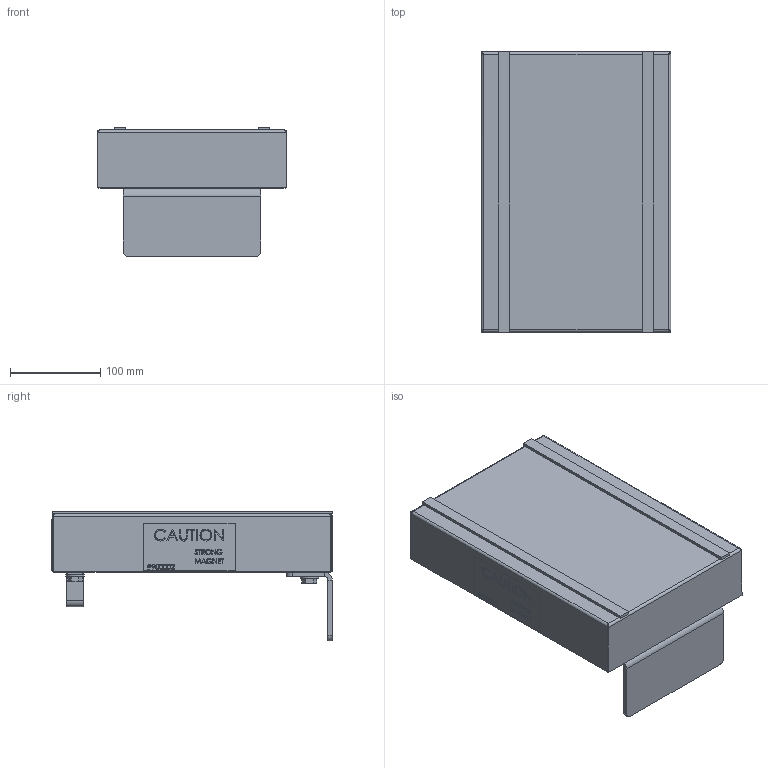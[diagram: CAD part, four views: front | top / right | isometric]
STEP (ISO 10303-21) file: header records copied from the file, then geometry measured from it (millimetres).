
FILE_DESCRIPTION (( 'STEP AP203' ), '1' );
FILE_NAME ('TKF12.STEP', '2017-10-10T10:41:21', ( 'admin' ), ( '' ), 'SwSTEP 2.0', 'SolidWorks 2015', '' );
FILE_SCHEMA (( 'CONFIG_CONTROL_DESIGN' ));
Products named in the file (1): TKF12
Bounding box: 210.82 x 311.4 x 144.15 mm (x, y, z)
Volume: 3459649.5 mm3; surface area: 773346.6 mm2
Topology: 23 solids, 23 shells, 2382 faces, 6026 edges, 3908 vertices
Faces by surface type: plane 1331, bspline 675, cylinder 192, cone 176, torus 8
Entity records: 112129 total; most frequent: CARTESIAN_POINT 59214, ORIENTED_EDGE 12052, DIRECTION 8472, EDGE_CURVE 6026, VECTOR 4080, LINE 4080, VERTEX_POINT 3908, EDGE_LOOP 2632
